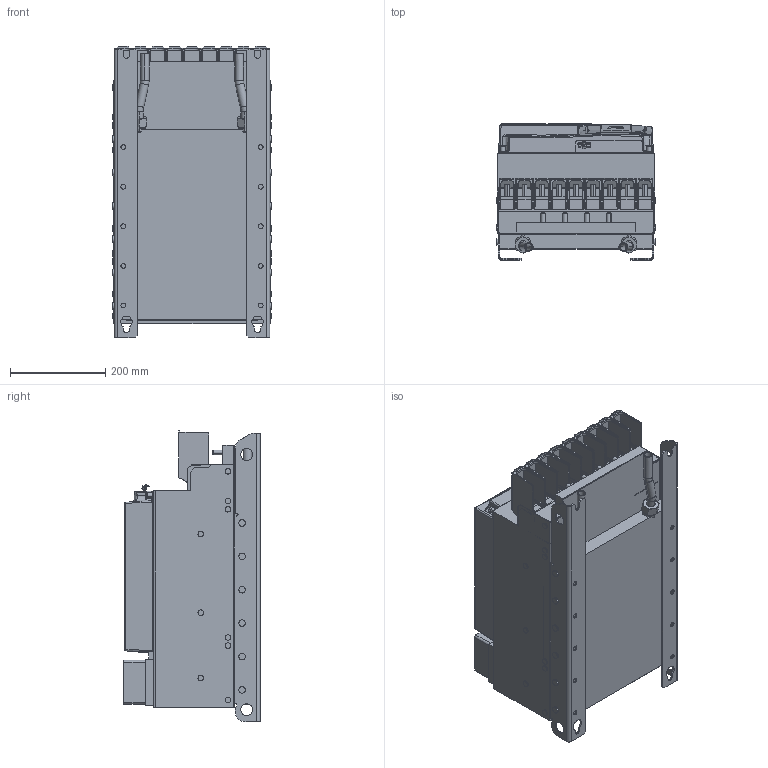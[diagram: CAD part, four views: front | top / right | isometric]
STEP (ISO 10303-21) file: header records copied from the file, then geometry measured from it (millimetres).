
FILE_DESCRIPTION (( 'STEP AP214' ), '1' );
FILE_NAME ('10078327_000.STEP', '2023-11-20T08:25:23', ( '' ), ( '' ), 'SwSTEP 2.0', 'SolidWorks 2022', '' );
FILE_SCHEMA (( 'AUTOMOTIVE_DESIGN' ));
Length unit declared in the file: millimetre
Products named in the file (13): 10059764_000_Blindabdeckung (Kundenmodell); 10051076_000_Kundenmodell; Kundenmodell^10043622_000; 10078327_000; Kundenmodell^10061502_000; Kundenmodell^10051076_000_Kundenmodell mit Geberbuchsen; 10043622_000_70F6 Klemme (Kundenmodell); Kundenmodell^10045475_000_Gehäusebaugruppe ohne Lüfterkarte; 10045475_000_Gehäusebaugruppe F6-7 (Kundenmodell); Kundenmodell ohne Zubehör^10077759_000; 10077759_000_ Leistungsteil F6-7 TW0 (Kundenmodell); 10061502_000_Deckel (Kundenmodell); Kundenmodell^10059764_000
Assembly tree (12 placements, depth 4):
  10078327_000
    10077759_000_ Leistungsteil F6-7 TW0 (Kundenmodell)
      10043622_000_70F6 Klemme (Kundenmodell)
        Kundenmodell^10043622_000
      Kundenmodell ohne Zubehör^10077759_000
    10045475_000_Gehäusebaugruppe F6-7 (Kundenmodell)
      10061502_000_Deckel (Kundenmodell)
        Kundenmodell^10061502_000
      Kundenmodell^10045475_000_Gehäusebaugruppe ohne Lüfterkarte
    10051076_000_Kundenmodell
      10059764_000_Blindabdeckung (Kundenmodell)
        Kundenmodell^10059764_000
      Kundenmodell^10051076_000_Kundenmodell mit Geberbuchsen
Bounding box: 335.4 x 285.9 x 610.76 mm (x, y, z)
Volume: 41228441.3 mm3; surface area: 2160285.3 mm2
Topology: 12 solids, 14 shells, 3225 faces, 8272 edges, 5084 vertices
Faces by surface type: plane 1604, cylinder 966, bspline 281, sphere 172, cone 121, torus 81
Entity records: 104316 total; most frequent: CARTESIAN_POINT 28260, ORIENTED_EDGE 16324, DIRECTION 14977, EDGE_CURVE 8162, LINE 5099, VECTOR 5099, VERTEX_POINT 5081, AXIS2_PLACEMENT_3D 4939
